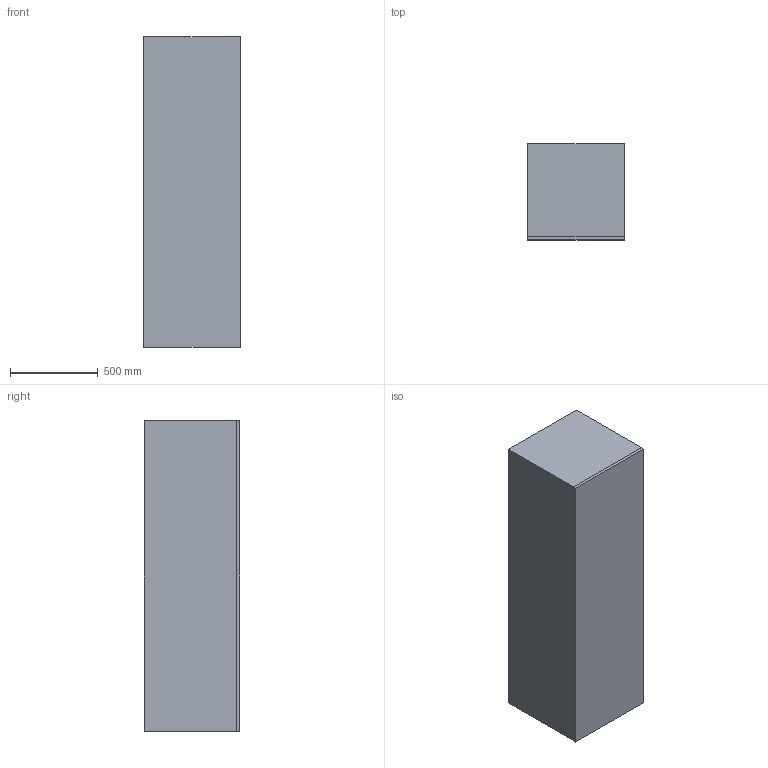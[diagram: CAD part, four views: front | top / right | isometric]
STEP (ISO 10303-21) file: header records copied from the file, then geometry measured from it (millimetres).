
FILE_DESCRIPTION(/* description */ (''),/* implementation_level */ '2;1');
FILE_NAME(/* name */ 'FR6178NVIR',/* time_stamp */ '2025-12-11T18:30:10+01:00',/* author */ (''),/* organization */ (''),/* preprocessor_version */ 'ST-DEVELOPER v16.5',/* originating_system */ 'Rhino 7.38',/* authorisation */ '');
FILE_SCHEMA (('AUTOMOTIVE_DESIGN'));
Length unit declared in the file: millimetre
Products named in the file (1): Document
Bounding box: 548 x 545 x 1770 mm (x, y, z)
Volume: 528628200 mm3; surface area: 6406460 mm2
Topology: 2 solids, 2 shells, 12 faces, 24 edges, 16 vertices
Faces by surface type: plane 12
Entity records: 307 total; most frequent: CARTESIAN_POINT 78, ORIENTED_EDGE 48, EDGE_CURVE 24, B_SPLINE_CURVE_WITH_KNOTS 24, VERTEX_POINT 16, DIRECTION 16, AXIS2_PLACEMENT_3D 14, ADVANCED_FACE 12
